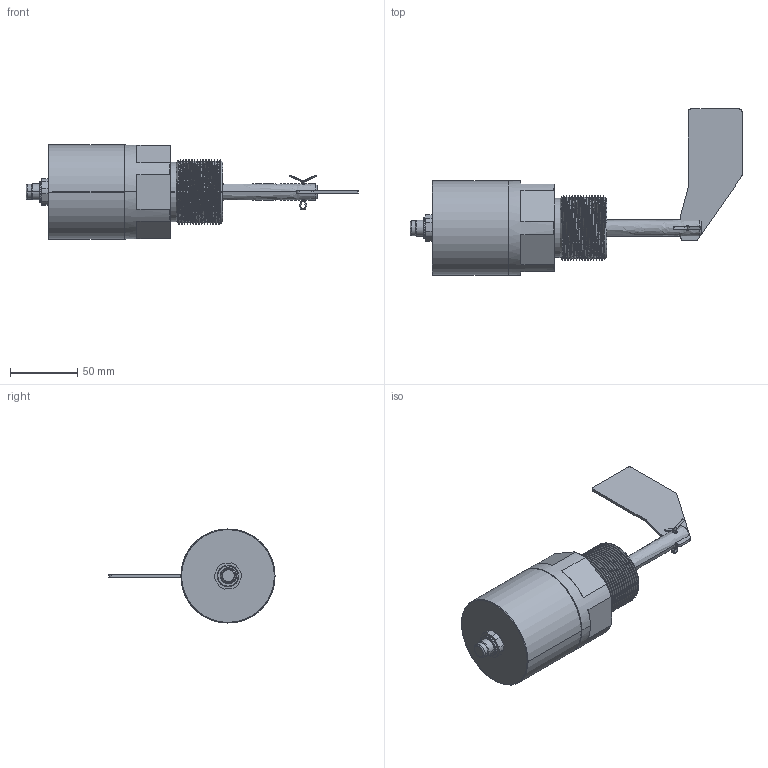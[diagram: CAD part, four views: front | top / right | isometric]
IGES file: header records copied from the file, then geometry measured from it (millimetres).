
Start section: SolidWorks IGES file using analytic representation for surfaces
Global section: file name: C:\Users\Äîì\Desktop\Äàò÷èêè ìîäåëè\Íîâàÿ ïàïêà\MBA888_24V (1).IGS; native system: SolidWorks 2020; preprocessor: SolidWorks 2020; author: Äîì; date: 210221.172806; units: millimetre
Bounding box: 247 x 123.5 x 70 mm (x, y, z)
Surface area: 81176.2 mm2 (no closed solid volume)
Topology: 0 solids, 0 shells, 291 faces, 4947 edges, 4943 vertices
Faces by surface type: revolution 177, bspline 114
